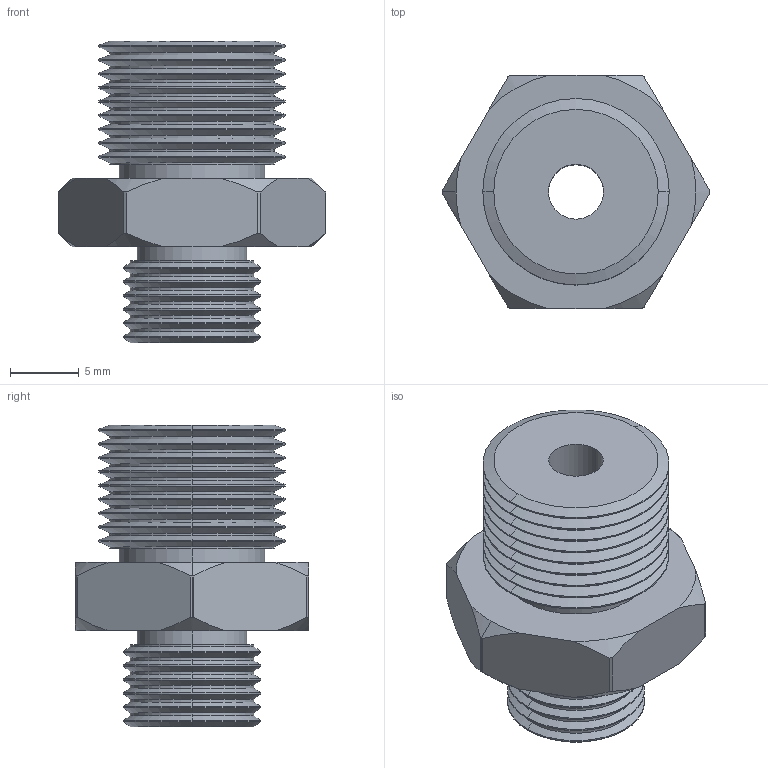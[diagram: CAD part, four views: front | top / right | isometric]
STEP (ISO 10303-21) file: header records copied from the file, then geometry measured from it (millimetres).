
FILE_DESCRIPTION (( 'STEP AP214' ), '1' );
FILE_NAME ('VM-G18M-G14M.STEP', '2023-03-07T08:54:00', ( 'Windows User' ), ( 'P R C' ), 'SwSTEP 2.0', 'SolidWorks 2019', '' );
FILE_SCHEMA (( 'AUTOMOTIVE_DESIGN' ));
Length unit declared in the file: millimetre
Products named in the file (1): VM-G18M-G14M
Bounding box: 19.5 x 17 x 22 mm (x, y, z)
Volume: 2670.9 mm3; surface area: 2168.6 mm2
Topology: 1 solids, 1 shells, 161 faces, 346 edges, 191 vertices
Faces by surface type: cone 76, cylinder 73, plane 12
Entity records: 4393 total; most frequent: CARTESIAN_POINT 827, DIRECTION 813, ORIENTED_EDGE 692, EDGE_CURVE 346, AXIS2_PLACEMENT_3D 329, VERTEX_POINT 191, EDGE_LOOP 167, CIRCLE 167
